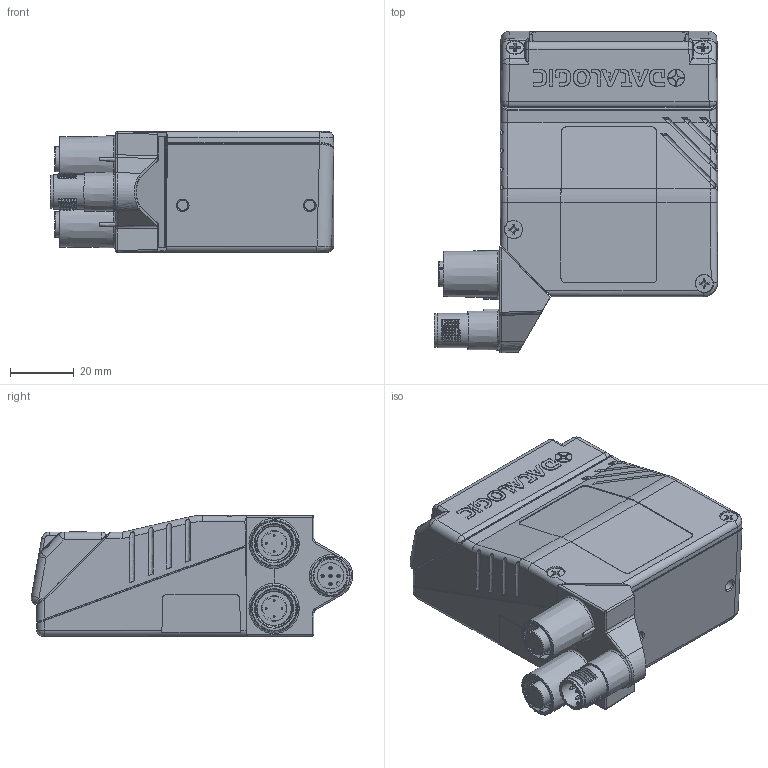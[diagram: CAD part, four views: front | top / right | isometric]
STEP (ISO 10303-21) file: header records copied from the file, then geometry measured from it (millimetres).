
FILE_DESCRIPTION(/* description */ (''),/* implementation_level */ '2;1');
FILE_NAME(/* name */ 'DSD0601.stp',/* time_stamp */ '2014-05-19T15:35:03+02:00',/* author */ (''),/* organization */ (''),/* preprocessor_version */ 'ST-DEVELOPER v11',/* originating_system */ 'SIEMENS PLM Software NX 7.5',/* authorisation */ '');
FILE_SCHEMA (('CONFIG_CONTROL_DESIGN'));
Products named in the file (1): acar76EDtnkm
Bounding box: 89.22 x 101.14 x 38.09 mm (x, y, z)
Volume: 60008.8 mm3; surface area: 62356.4 mm2
Topology: 125 solids, 127 shells, 5097 faces, 13088 edges, 8260 vertices
Faces by surface type: plane 2992, cylinder 900, bspline 672, extrusion 189, cone 154, torus 98, sphere 92
Full cylindrical faces by diameter (mm): 0.6 x16, 0.8 x10, 1 x20, 1.45 x10, 1.8 x2, 2.05 x4, 2.1 x2, 2.4 x2, 2.5 x12, 2.874 x2, 3 x2, 3.2 x8, 3.3 x4, 5.5 x2, 5.6 x2, 5.8 x2, 8 x2, 8.3 x1, 9.3 x1, 9.4 x4, 9.5 x1, 9.6 x2, 9.9 x2, 10.4 x1, 10.7 x2, 10.8 x1, 10.9 x10, 12.3 x1, 13.8 x1, 14 x2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
Entity records: 180288 total; most frequent: CARTESIAN_POINT 67047, ORIENTED_EDGE 25094, DIRECTION 20150, EDGE_CURVE 12550, VERTEX_POINT 8106, VECTOR 7222, LINE 7033, AXIS2_PLACEMENT_3D 6464
